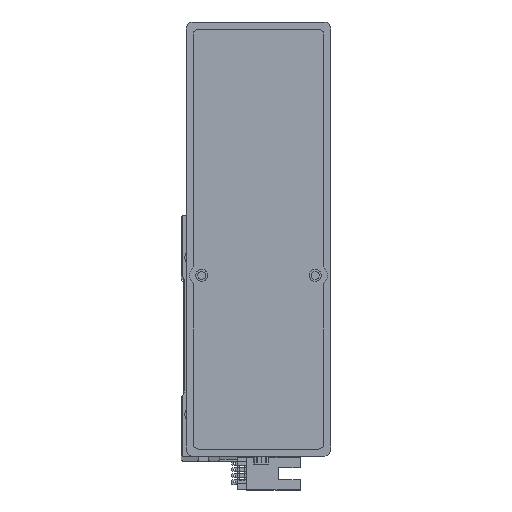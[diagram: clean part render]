
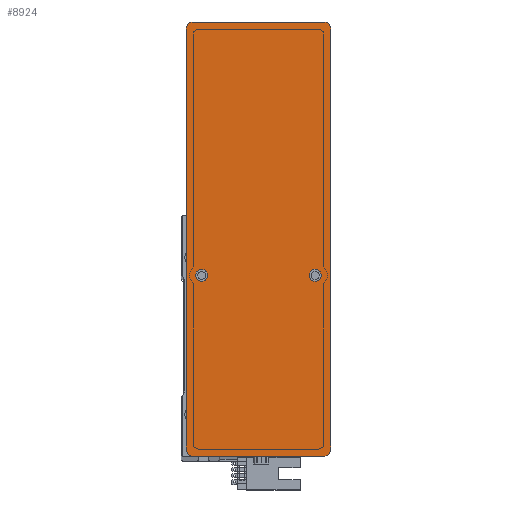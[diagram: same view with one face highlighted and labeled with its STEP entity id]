
A CAD part, top view. The second image highlights one B-rep face of the part: STEP entity #8924.
In plain terms, the highlighted planar face has unit normal (0, 0, 1) as drawn and (0, 0, -1) by its records, which use the part's own axes.
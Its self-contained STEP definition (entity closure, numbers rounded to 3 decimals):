
#253 = CARTESIAN_POINT ( 'NONE',  ( 87., 30., 0. ) ) ;
#446 = PLANE ( 'NONE',  #8232 ) ;
#916 = CARTESIAN_POINT ( 'NONE',  ( 90., -30., 0. ) ) ;
#2834 = CIRCLE ( 'NONE', #36412, 2.5 ) ;
#2852 = CARTESIAN_POINT ( 'NONE',  ( 90., 30., 0. ) ) ;
#2961 = DIRECTION ( 'NONE',  ( 0., 0., -1. ) ) ;
#3057 = CIRCLE ( 'NONE', #14680, 3. ) ;
#4261 = DIRECTION ( 'NONE',  ( 0., 0., 1. ) ) ;
#5593 = VERTEX_POINT ( 'NONE', #13791 ) ;
#7626 = AXIS2_PLACEMENT_3D ( 'NONE', #35546, #12568, #39418 ) ;
#8232 = AXIS2_PLACEMENT_3D ( 'NONE', #42570, #4261, #31118 ) ;
#8320 = FACE_OUTER_BOUND ( 'NONE', #20598, .T. ) ;
#8864 = DIRECTION ( 'NONE',  ( 0., 0., -1. ) ) ;
#8924 = ADVANCED_FACE ( 'NONE', ( #27544, #18531, #8320 ), #446, .F. ) ;
#9488 = DIRECTION ( 'NONE',  ( 0., -1., 0. ) ) ;
#10101 = CARTESIAN_POINT ( 'NONE',  ( -12.5, 23.5, 0. ) ) ;
#10121 = EDGE_CURVE ( 'NONE', #46018, #23517, #19569, .T. ) ;
#11389 = CARTESIAN_POINT ( 'NONE',  ( -17.5, 23.5, 0. ) ) ;
#11918 = CARTESIAN_POINT ( 'NONE',  ( -87., 27., 0. ) ) ;
#12142 = EDGE_LOOP ( 'NONE', ( #47665, #27694 ) ) ;
#12539 = CIRCLE ( 'NONE', #39697, 3. ) ;
#12568 = DIRECTION ( 'NONE',  ( 0., 0., -1. ) ) ;
#13236 = CARTESIAN_POINT ( 'NONE',  ( 87., -27., 0. ) ) ;
#13791 = CARTESIAN_POINT ( 'NONE',  ( -17.5, -23.5, 0. ) ) ;
#14680 = AXIS2_PLACEMENT_3D ( 'NONE', #22635, #49457, #26476 ) ;
#14756 = CIRCLE ( 'NONE', #7626, 2.5 ) ;
#15079 = VERTEX_POINT ( 'NONE', #18432 ) ;
#15773 = DIRECTION ( 'NONE',  ( 1., 0., 0. ) ) ;
#16779 = ORIENTED_EDGE ( 'NONE', *, *, #47356, .T. ) ;
#17094 = DIRECTION ( 'NONE',  ( 1., 0., 0. ) ) ;
#17151 = LINE ( 'NONE', #25328, #47777 ) ;
#17246 = CARTESIAN_POINT ( 'NONE',  ( -15., 23.5, 0. ) ) ;
#18432 = CARTESIAN_POINT ( 'NONE',  ( -12.5, -23.5, 0. ) ) ;
#18531 = FACE_BOUND ( 'NONE', #26787, .T. ) ;
#19469 = LINE ( 'NONE', #2852, #38663 ) ;
#19569 = LINE ( 'NONE', #32475, #39996 ) ;
#20520 = CARTESIAN_POINT ( 'NONE',  ( -15., -23.5, 0. ) ) ;
#20598 = EDGE_LOOP ( 'NONE', ( #24817, #48404, #23607, #35561, #41682, #38994, #24004, #16779 ) ) ;
#21146 = DIRECTION ( 'NONE',  ( -1., 0., 0. ) ) ;
#22457 = VERTEX_POINT ( 'NONE', #49412 ) ;
#22635 = CARTESIAN_POINT ( 'NONE',  ( -87., -27., 0. ) ) ;
#23517 = VERTEX_POINT ( 'NONE', #49026 ) ;
#23607 = ORIENTED_EDGE ( 'NONE', *, *, #47512, .F. ) ;
#24004 = ORIENTED_EDGE ( 'NONE', *, *, #44403, .F. ) ;
#24411 = DIRECTION ( 'NONE',  ( -1., 0., 0. ) ) ;
#24779 = VECTOR ( 'NONE', #35420, 1000. ) ;
#24817 = ORIENTED_EDGE ( 'NONE', *, *, #30927, .F. ) ;
#25328 = CARTESIAN_POINT ( 'NONE',  ( 90., -30., 0. ) ) ;
#25981 = CARTESIAN_POINT ( 'NONE',  ( -15., 23.5, 0. ) ) ;
#26172 = EDGE_CURVE ( 'NONE', #29610, #40508, #2834, .T. ) ;
#26476 = DIRECTION ( 'NONE',  ( 1., 0., 0. ) ) ;
#26488 = CARTESIAN_POINT ( 'NONE',  ( -90., 27., 0. ) ) ;
#26787 = EDGE_LOOP ( 'NONE', ( #35614, #31072 ) ) ;
#27544 = FACE_BOUND ( 'NONE', #12142, .T. ) ;
#27694 = ORIENTED_EDGE ( 'NONE', *, *, #34056, .F. ) ;
#29610 = VERTEX_POINT ( 'NONE', #11389 ) ;
#29830 = DIRECTION ( 'NONE',  ( -1., 0., 0. ) ) ;
#30472 = CARTESIAN_POINT ( 'NONE',  ( 90., -27., 0. ) ) ;
#30927 = EDGE_CURVE ( 'NONE', #41634, #43510, #45202, .T. ) ;
#31072 = ORIENTED_EDGE ( 'NONE', *, *, #46774, .F. ) ;
#31118 = DIRECTION ( 'NONE',  ( 1., 0., 0. ) ) ;
#31611 = AXIS2_PLACEMENT_3D ( 'NONE', #31852, #8864, #35706 ) ;
#31852 = CARTESIAN_POINT ( 'NONE',  ( 87., 27., 0. ) ) ;
#31907 = AXIS2_PLACEMENT_3D ( 'NONE', #20520, #47339, #24411 ) ;
#32475 = CARTESIAN_POINT ( 'NONE',  ( -90., -30., 0. ) ) ;
#33020 = DIRECTION ( 'NONE',  ( 1., 0., 0. ) ) ;
#33390 = AXIS2_PLACEMENT_3D ( 'NONE', #17246, #44156, #21146 ) ;
#33795 = VERTEX_POINT ( 'NONE', #45512 ) ;
#33964 = EDGE_CURVE ( 'NONE', #5593, #15079, #14756, .T. ) ;
#34056 = EDGE_CURVE ( 'NONE', #40508, #29610, #39364, .T. ) ;
#35420 = DIRECTION ( 'NONE',  ( 0., 1., 0. ) ) ;
#35546 = CARTESIAN_POINT ( 'NONE',  ( -15., -23.5, 0. ) ) ;
#35561 = ORIENTED_EDGE ( 'NONE', *, *, #39507, .T. ) ;
#35614 = ORIENTED_EDGE ( 'NONE', *, *, #33964, .F. ) ;
#35706 = DIRECTION ( 'NONE',  ( 1., 0., 0. ) ) ;
#36412 = AXIS2_PLACEMENT_3D ( 'NONE', #25981, #2961, #29830 ) ;
#38489 = CARTESIAN_POINT ( 'NONE',  ( 90., 27., 0. ) ) ;
#38663 = VECTOR ( 'NONE', #45333, 1000. ) ;
#38740 = AXIS2_PLACEMENT_3D ( 'NONE', #13236, #40107, #17094 ) ;
#38772 = DIRECTION ( 'NONE',  ( 0., 0., -1. ) ) ;
#38994 = ORIENTED_EDGE ( 'NONE', *, *, #42192, .T. ) ;
#39364 = CIRCLE ( 'NONE', #33390, 2.5 ) ;
#39418 = DIRECTION ( 'NONE',  ( -1., 0., 0. ) ) ;
#39507 = EDGE_CURVE ( 'NONE', #22457, #23517, #3057, .T. ) ;
#39697 = AXIS2_PLACEMENT_3D ( 'NONE', #11918, #38772, #15773 ) ;
#39996 = VECTOR ( 'NONE', #9488, 1000. ) ;
#40061 = VERTEX_POINT ( 'NONE', #41541 ) ;
#40107 = DIRECTION ( 'NONE',  ( 0., 0., -1. ) ) ;
#40137 = CIRCLE ( 'NONE', #38740, 3. ) ;
#40508 = VERTEX_POINT ( 'NONE', #10101 ) ;
#40643 = CIRCLE ( 'NONE', #31611, 3. ) ;
#41541 = CARTESIAN_POINT ( 'NONE',  ( 87., -30., 0. ) ) ;
#41634 = VERTEX_POINT ( 'NONE', #30472 ) ;
#41682 = ORIENTED_EDGE ( 'NONE', *, *, #10121, .F. ) ;
#42192 = EDGE_CURVE ( 'NONE', #46018, #33795, #12539, .T. ) ;
#42433 = EDGE_CURVE ( 'NONE', #41634, #40061, #40137, .T. ) ;
#42570 = CARTESIAN_POINT ( 'NONE',  ( 0., 0., 0. ) ) ;
#43510 = VERTEX_POINT ( 'NONE', #38489 ) ;
#44156 = DIRECTION ( 'NONE',  ( 0., 0., -1. ) ) ;
#44403 = EDGE_CURVE ( 'NONE', #46639, #33795, #19469, .T. ) ;
#45202 = LINE ( 'NONE', #916, #24779 ) ;
#45333 = DIRECTION ( 'NONE',  ( -1., 0., 0. ) ) ;
#45512 = CARTESIAN_POINT ( 'NONE',  ( -87., 30., 0. ) ) ;
#45532 = CIRCLE ( 'NONE', #31907, 2.5 ) ;
#46018 = VERTEX_POINT ( 'NONE', #26488 ) ;
#46639 = VERTEX_POINT ( 'NONE', #253 ) ;
#46774 = EDGE_CURVE ( 'NONE', #15079, #5593, #45532, .T. ) ;
#47339 = DIRECTION ( 'NONE',  ( 0., 0., -1. ) ) ;
#47356 = EDGE_CURVE ( 'NONE', #46639, #43510, #40643, .T. ) ;
#47512 = EDGE_CURVE ( 'NONE', #22457, #40061, #17151, .T. ) ;
#47665 = ORIENTED_EDGE ( 'NONE', *, *, #26172, .F. ) ;
#47777 = VECTOR ( 'NONE', #33020, 1000. ) ;
#48404 = ORIENTED_EDGE ( 'NONE', *, *, #42433, .T. ) ;
#49026 = CARTESIAN_POINT ( 'NONE',  ( -90., -27., 0. ) ) ;
#49412 = CARTESIAN_POINT ( 'NONE',  ( -87., -30., 0. ) ) ;
#49457 = DIRECTION ( 'NONE',  ( 0., 0., -1. ) ) ;
